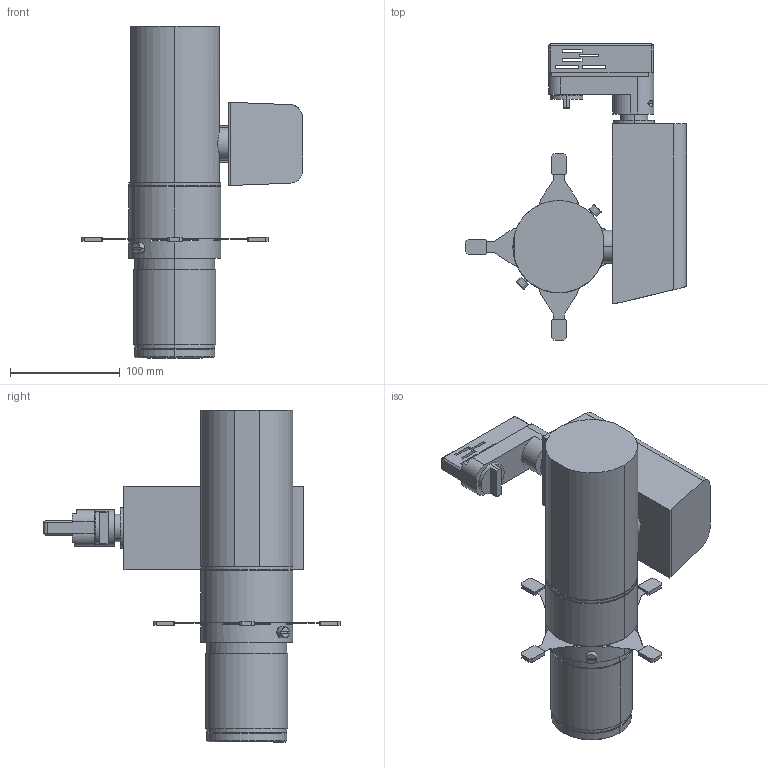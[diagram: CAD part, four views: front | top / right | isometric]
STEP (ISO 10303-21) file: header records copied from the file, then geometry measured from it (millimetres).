
FILE_DESCRIPTION (( 'STEP AP203' ), '1' );
FILE_NAME ('P1L (Track_Sidecar)_Hanging+36D_10-06-2026.STEP', '2026-06-11T02:59:22', ( '' ), ( '' ), 'SwSTEP 2.0', 'SolidWorks 2014', '' );
FILE_SCHEMA (( 'CONFIG_CONTROL_DESIGN' ));
Length unit declared in the file: millimetre
Products named in the file (5): Sidecar_Yoke+PSU_(Track); P1L - Light Body; 36D_Fresnel Lens_P1L; ONE TRACK Track Adapter; P1L (Track_Sidecar)_Hanging+36D_10-06-2026
Assembly tree (4 placements, depth 2):
  P1L (Track_Sidecar)_Hanging+36D_10-06-2026
    Sidecar_Yoke+PSU_(Track)
    P1L - Light Body
    36D_Fresnel Lens_P1L
    ONE TRACK Track Adapter
Bounding box: 201.56 x 270.31 x 302.7 mm (x, y, z)
Volume: 2433974.9 mm3; surface area: 196836.1 mm2
Topology: 7 solids, 7 shells, 351 faces, 910 edges, 592 vertices
Faces by surface type: plane 221, cylinder 98, cone 26, bspline 4, torus 2
Entity records: 11993 total; most frequent: CARTESIAN_POINT 2744, ORIENTED_EDGE 1820, DIRECTION 1818, EDGE_CURVE 910, AXIS2_PLACEMENT_3D 612, LINE 594, VECTOR 594, VERTEX_POINT 592
